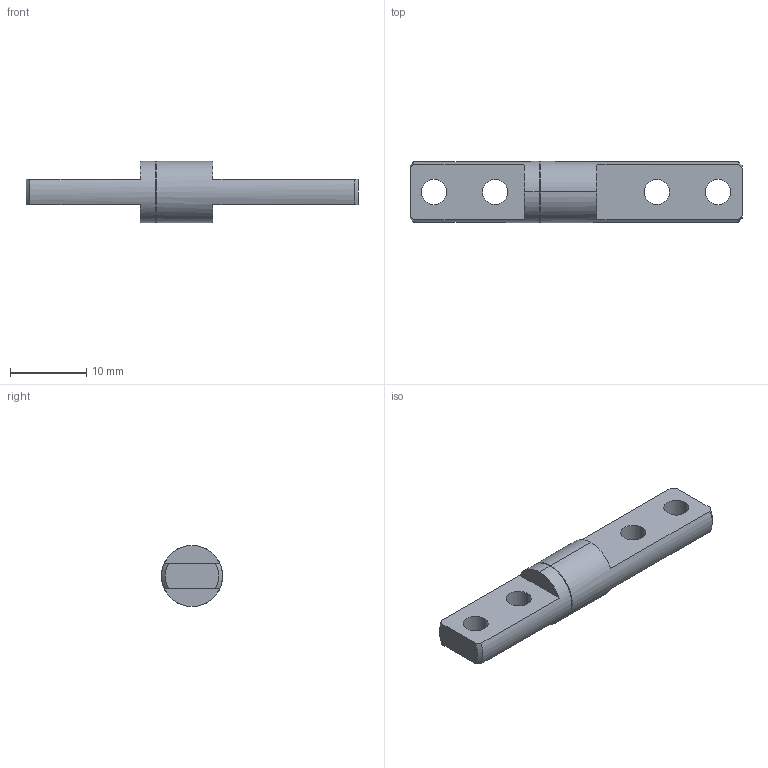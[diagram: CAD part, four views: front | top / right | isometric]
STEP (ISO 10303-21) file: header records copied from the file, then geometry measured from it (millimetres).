
FILE_DESCRIPTION (( 'STEP AP203' ), '1' );
FILE_NAME ('XG11-074-4.STEP', '2025-07-04T05:55:00', ( '微软用户' ), ( '微软中国' ), 'SwSTEP 2.0', 'SolidWorks 2024', '' );
FILE_SCHEMA (( 'CONFIG_CONTROL_DESIGN' ));
Length unit declared in the file: millimetre
Products named in the file (1): XG11-074-4
Bounding box: 43.5 x 8 x 8 mm (x, y, z)
Volume: 1234.3 mm3; surface area: 1130.9 mm2
Topology: 1 solids, 1 shells, 30 faces, 78 edges, 50 vertices
Faces by surface type: cylinder 12, plane 10, torus 4, cone 4
Entity records: 1037 total; most frequent: CARTESIAN_POINT 183, DIRECTION 174, ORIENTED_EDGE 156, EDGE_CURVE 78, AXIS2_PLACEMENT_3D 73, VERTEX_POINT 50, CIRCLE 42, EDGE_LOOP 38
